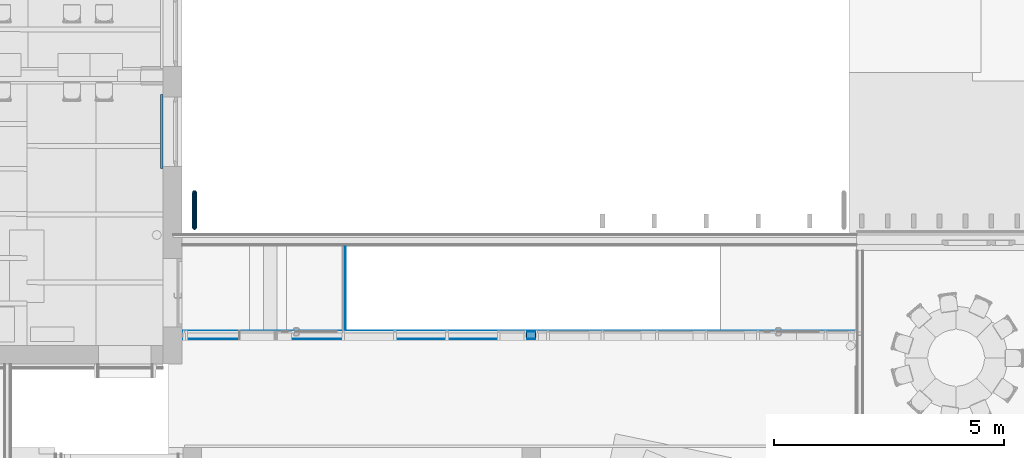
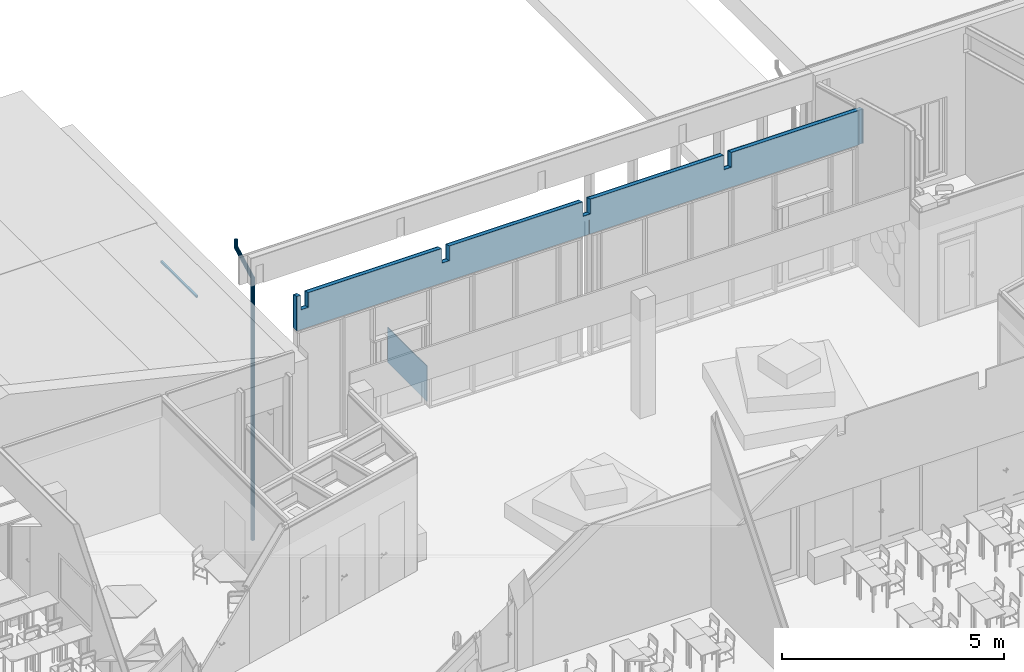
# One storey, part 63 of 153: 5 building element parts, 2 discrete accessories, 2 elements without a shape of their own.
"""IFC2X3 building model written with IfcOpenShell, lengths in millimetres."""

import ifcopenshell
import ifcopenshell.guid

model = None  # the IFC model being written
_history = None  # IfcOwnerHistory: only IFC2X3 demands one
_inside = {}  # id of a spatial element -> (the spatial element, [elements in it])
_under = {}  # id of a project, library or spatial element -> (it, [spatial elements below it])
_declared = {}  # id of a project -> (the project, [libraries it declares])
_typed = {}  # id of a type object -> (the type object, [elements of that type])
_made_of = {}  # id of a material, layer set ... -> (it, [elements and type objects made of it])


def new_model(schema):
    """Start an empty IFC model of exactly this schema.

    Asked for "IFC4X3", IfcOpenShell would pick the latest addendum, in which some entities
    have other attributes; the version numbers below select the first issue.
    IFC2X3 requires an IfcOwnerHistory on every rooted entity: one is made here for all.
    """
    global model, _history
    if schema == "IFC4X3":
        model = ifcopenshell.file(schema_version=(4, 3, 0, 0))
    else:
        model = ifcopenshell.file(schema=schema)
    _inside.clear()
    _under.clear()
    _declared.clear()
    _typed.clear()
    _made_of.clear()
    _history = None
    if model.schema == "IFC2X3":
        org = make("IfcOrganization", Name="unknown")
        user = make(
            "IfcPersonAndOrganization",
            ThePerson=make("IfcPerson", FamilyName="unknown"),
            TheOrganization=org,
        )
        app = make(
            "IfcApplication",
            ApplicationDeveloper=org,
            Version="unknown",
            ApplicationFullName="unknown",
            ApplicationIdentifier="unknown",
        )
        _history = make(
            "IfcOwnerHistory",
            OwningUser=user,
            OwningApplication=app,
            ChangeAction="ADDED",
            CreationDate=0,
        )
    return model


def make(cls, **values):
    """One entity of the class cls with the attributes given. An attribute that is None is left unset."""
    return model.create_entity(
        cls, **{name: value for name, value in values.items() if value is not None}
    )


def entity(cls, *values):
    """Any entity or typed value of the class cls, its attributes in the order of the schema. None: left unset."""
    e = model.create_entity(cls)
    for i, value in enumerate(values):
        if value is not None:
            e[i] = value
    return e


def rooted(cls, **values):
    """An entity with a GlobalId (a new one), such as an element, a storey or a relation."""
    return make(cls, GlobalId=ifcopenshell.guid.new(), OwnerHistory=_history, **values)


def si_unit(unit_type, name, prefix=None):
    """IfcSIUnit, for example si_unit("LENGTHUNIT", "METRE", prefix="MILLI")."""
    return make("IfcSIUnit", UnitType=unit_type, Prefix=prefix, Name=name)


def converted_unit(unit_type, name, factor, base, dimensions=None, offset=None):
    """IfcConversionBasedUnit, such as the inch: factor (a typed value) times the base unit."""
    return make(
        "IfcConversionBasedUnit"
        if offset is None
        else "IfcConversionBasedUnitWithOffset",
        ConversionOffset=offset,
        Dimensions=None
        if dimensions is None
        else entity("IfcDimensionalExponents", *dimensions),
        UnitType=unit_type,
        Name=name,
        ConversionFactor=make(
            "IfcMeasureWithUnit", ValueComponent=factor, UnitComponent=base
        ),
    )


def derived_unit(unit_type, elements):
    """IfcDerivedUnit: a product of units, each with its exponent."""
    return make(
        "IfcDerivedUnit",
        Elements=[
            make("IfcDerivedUnitElement", Unit=unit, Exponent=power)
            for unit, power in elements
        ],
        UnitType=unit_type,
    )


def money_unit(currency):
    """IfcMonetaryUnit."""
    return make("IfcMonetaryUnit", Currency=currency)


def assignment(units):
    """IfcUnitAssignment: the units of a project."""
    return None if units is None else make("IfcUnitAssignment", Units=units)


def point(xyz):
    """IfcCartesianPoint."""
    return None if xyz is None else make("IfcCartesianPoint", Coordinates=xyz)


def direction(xyz):
    """IfcDirection."""
    return None if xyz is None else make("IfcDirection", DirectionRatios=xyz)


def frame(location, z_axis=None, x_axis=None):
    """IfcAxis2Placement3D, a coordinate frame: its origin and axes. An axis left out is left unset."""
    return make(
        "IfcAxis2Placement3D",
        Location=point(location),
        Axis=direction(z_axis),
        RefDirection=direction(x_axis),
    )


def origin_with_axes():
    """The frame at (0, 0, 0) with the z axis (0, 0, 1) and the x axis (1, 0, 0) written out."""
    return frame((0.0, 0.0, 0.0), z_axis=(0.0, 0.0, 1.0), x_axis=(1.0, 0.0, 0.0))


def place(relative_to, where):
    """IfcLocalPlacement: puts the frame where relative to a parent placement (None: the world)."""
    return make(
        "IfcLocalPlacement", PlacementRelTo=relative_to, RelativePlacement=where
    )


def context(
    kind, dimensions, precision=None, world=None, true_north=None, identifier=None
):
    """IfcGeometricRepresentationContext, for example the 3D "Model" context."""
    return make(
        "IfcGeometricRepresentationContext",
        ContextIdentifier=identifier,
        ContextType=kind,
        CoordinateSpaceDimension=dimensions,
        Precision=precision,
        WorldCoordinateSystem=world,
        TrueNorth=true_north,
    )


def subcontext(parent, identifier, kind, view, scale=None):
    """IfcGeometricRepresentationSubContext, for example "Body" below "Model"."""
    return make(
        "IfcGeometricRepresentationSubContext",
        ContextIdentifier=identifier,
        ContextType=kind,
        ParentContext=parent,
        TargetScale=scale,
        TargetView=view,
    )


def project(units=None, contexts=None):
    """IfcProject with its units and contexts."""
    return rooted(
        "IfcProject",
        Name="project",
        RepresentationContexts=contexts,
        UnitsInContext=assignment(units),
    )


def spatial(cls, under=None, at=None, **own):
    """A site, building, storey or space (cls), placed at a placement, below another one or the project."""
    s = rooted(cls, ObjectPlacement=at, **own)
    if under is not None:
        _under.setdefault(under.id(), (under, []))[1].append(s)
    return s


def faces_of(points, faces, orient=None, outer=None):
    """IfcFace entities. A face is a list of loops; a loop is a list of indices into points, from 0.

    orient and outer hold one flag for each loop. By default every Orientation is true, the
    first loop of a face is its IfcFaceOuterBound and the others are IfcFaceBound.
    """
    made = []
    for i, loops in enumerate(faces):
        bounds = []
        for j, loop in enumerate(loops):
            is_outer = j == 0 if outer is None else outer[i][j]
            bounds.append(
                make(
                    "IfcFaceOuterBound" if is_outer else "IfcFaceBound",
                    Bound=make("IfcPolyLoop", Polygon=[points[k] for k in loop]),
                    Orientation=True if orient is None else orient[i][j],
                )
            )
        made.append(make("IfcFace", Bounds=bounds))
    return made


def open_shell(faces, orient=None, outer=None):
    """The faces of one IfcOpenShell. surface_model builds it on its shared points."""
    return ("IfcOpenShell", faces, orient, outer)


def faceted_brep(points, faces, orient=None, outer=None, voids=None):
    """IfcFacetedBrep: a solid bounded by flat faces; with voids (closed shells), ...WithVoids."""
    shared = [point(p) for p in points]
    hull = make("IfcClosedShell", CfsFaces=faces_of(shared, faces, orient, outer))
    if voids is None:
        return make("IfcFacetedBrep", Outer=hull)
    return make(
        "IfcFacetedBrepWithVoids",
        Outer=hull,
        Voids=[
            make(cls, CfsFaces=faces_of(shared, fs, o, b)) for cls, fs, o, b in voids
        ],
    )


def surface_model(cls, points, shells):
    """IfcFaceBasedSurfaceModel or IfcShellBasedSurfaceModel (cls): surfaces that need not close."""
    shared = [point(p) for p in points]
    made = [make(c, CfsFaces=faces_of(shared, fs, o, b)) for c, fs, o, b in shells]
    if cls == "IfcFaceBasedSurfaceModel":
        return make(cls, FbsmFaces=made)
    return make(cls, SbsmBoundary=made)


def shape(context_of_items, identifier, shape_type, items):
    """IfcShapeRepresentation: the items that make up one representation, for example the "Body"."""
    return make(
        "IfcShapeRepresentation",
        ContextOfItems=context_of_items,
        RepresentationIdentifier=identifier,
        RepresentationType=shape_type,
        Items=items,
    )


def material(Name=None, Category=None):
    """IfcMaterial."""
    return make("IfcMaterial", Name=Name, Category=Category)


def made_of(thing, what):
    """Note that an element or type object is made of a material, layer set ...; save() writes the relation."""
    if what is not None:
        _made_of.setdefault(what.id(), (what, []))[1].append(thing)
    return thing


def type_object(cls, material=None, **own):
    """A type object (cls), such as IfcWallType, which elements share."""
    return made_of(rooted(cls, **own), material)


def element(
    cls,
    number,
    at=None,
    inside=None,
    cuts=None,
    type_object=None,
    material=None,
    context=None,
    identifier="Body",
    shape_type=None,
    held_by="IfcProductDefinitionShape",
    body=None,
    shapes=None,
    **own,
):
    """One element of the class cls, such as IfcWall. Its Tag is "e" and its number.

    at: its placement. inside: the storey or other place that contains it. cuts: it is an
    opening in that element (IfcRelVoidsElement). A single representation is given by context,
    identifier, shape_type and body (its items); several are given by shapes. held_by: the class
    of the entity that holds the representations. save() writes the other relations.
    """
    e = rooted(cls, Tag="e%d" % number, ObjectPlacement=at, **own)
    if body is not None:
        shapes = [shape(context, identifier, shape_type, body)]
    if shapes is not None:
        e.Representation = make(held_by, Representations=shapes)
    if inside is not None:
        _inside.setdefault(inside.id(), (inside, []))[1].append(e)
    if cuts is not None:
        rooted(
            "IfcRelVoidsElement", RelatingBuildingElement=cuts, RelatedOpeningElement=e
        )
    if type_object is not None:
        _typed.setdefault(type_object.id(), (type_object, []))[1].append(e)
    return made_of(e, material)


def aggregate(whole, parts):
    """IfcRelAggregates: a whole, such as a stair, and the parts it consists of."""
    return rooted("IfcRelAggregates", RelatingObject=whole, RelatedObjects=parts)


def save(model, path):
    """Write the relations noted so far, then the file.

    IfcRelAggregates (storeys below a building ...), IfcRelContainedInSpatialStructure (elements
    in a storey), IfcRelDefinesByType, IfcRelAssociatesMaterial and IfcRelDeclares: one each for
    every whole, place, type object, material and project.
    """
    for whole, parts in _under.values():
        aggregate(whole, parts)
    for where, things in _inside.values():
        rooted(
            "IfcRelContainedInSpatialStructure",
            RelatedElements=things,
            RelatingStructure=where,
        )
    for kind, things in _typed.values():
        rooted("IfcRelDefinesByType", RelatedObjects=things, RelatingType=kind)
    for what, things in _made_of.values():
        rooted("IfcRelAssociatesMaterial", RelatedObjects=things, RelatingMaterial=what)
    for by, libraries in _declared.values():
        rooted("IfcRelDeclares", RelatingContext=by, RelatedDefinitions=libraries)
    model.write(path)


model = new_model("IFC2X3")

# Units and contexts
model_context = context("Model", 3, precision=0.01, world=origin_with_axes(), true_north=direction((0.0, 1.0)))
body_context = subcontext(model_context, "Body", "Model", "MODEL_VIEW")
ifc_project = project(units=[si_unit("LENGTHUNIT", "METRE", prefix="MILLI"), si_unit("AREAUNIT", "SQUARE_METRE"), si_unit("VOLUMEUNIT", "CUBIC_METRE"), converted_unit("PLANEANGLEUNIT", "DEGREE", entity("IfcPlaneAngleMeasure", 0.0174532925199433), si_unit("PLANEANGLEUNIT", "RADIAN"), dimensions=[0, 0, 0, 0, 0, 0, 0]), money_unit("EUR"), converted_unit("TIMEUNIT", "Year", entity("IfcTimeMeasure", 31557600.0), si_unit("TIMEUNIT", "SECOND"), dimensions=[0, 0, 1, 0, 0, 0, 0]), si_unit("MASSUNIT", "GRAM", prefix="KILO"), si_unit("THERMODYNAMICTEMPERATUREUNIT", "DEGREE_CELSIUS"), si_unit("LUMINOUSINTENSITYUNIT", "LUMEN"), si_unit("ENERGYUNIT", "JOULE", prefix="MEGA"), derived_unit("THERMALCONDUCTANCEUNIT", [(si_unit("POWERUNIT", "WATT"), 1), (si_unit("LENGTHUNIT", "METRE"), -1), (si_unit("THERMODYNAMICTEMPERATUREUNIT", "KELVIN"), -1)]), derived_unit("SPECIFICHEATCAPACITYUNIT", [(si_unit("ENERGYUNIT", "JOULE"), 1), (si_unit("MASSUNIT", "GRAM", prefix="KILO"), -1), (si_unit("THERMODYNAMICTEMPERATUREUNIT", "KELVIN"), -1)]), derived_unit("MASSDENSITYUNIT", [(si_unit("MASSUNIT", "GRAM", prefix="KILO"), 1), (si_unit("VOLUMEUNIT", "CUBIC_METRE"), -1)])], contexts=[model_context])

# Site, building, storey
site_placement = place(None, frame((0.0, 0.0, 8650.0), z_axis=(0.0, 0.0, 1.0), x_axis=(1.0, 0.0, 0.0)))
site = spatial("IfcSite", under=ifc_project, at=site_placement, Name="43301:001:0844", CompositionType="ELEMENT")
building_placement = place(site_placement, origin_with_axes())
building = spatial("IfcBuilding", under=site, at=building_placement, Name="Kuressaare Ametikooli tuulikute mehaanikute õppekorpus", CompositionType="ELEMENT")
storey_placement = place(building_placement, frame((0.0, 0.0, 4100.0), z_axis=(0.0, 0.0, 1.0), x_axis=(1.0, 0.0, 0.0)))
storey = spatial("IfcBuildingStorey", under=building, at=storey_placement, Name="2.korrus", CompositionType="ELEMENT", Elevation=4100.0)

# Discrete accessories
ifc_material_1 = material(Name="GENEERILINE - KONSTRUKTRIOON")
discrete_accessory_type_1 = type_object("IfcDiscreteAccessoryType", Name="GENEERILINE - KONSTRUKTRIOON 50")
discrete_accessory_1_placement = place(storey_placement, frame((103227.5122070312, 31634.61063422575, 2170.000000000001), z_axis=(0.0, 0.0, 1.0), x_axis=(1.0, 0.0, 0.0)))
element("IfcDiscreteAccessory", 1, at=discrete_accessory_1_placement, inside=storey, type_object=discrete_accessory_type_1, material=ifc_material_1, Name="RK2", context=body_context, shape_type="Brep", body=[
    faceted_brep([(0.0, 0.0, 49.99999999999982), (0.0, 0.0, 0.0), (-49.99999999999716, 0.0, 0.0), (-49.99999999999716, 0.0, 49.99999999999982), (0.0, -1610.0, 49.99999999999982), (0.0, -1610.0, 0.0), (-49.99999999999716, -1610.0, 0.0), (-49.99999999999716, -1610.0, 49.99999999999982)], [[[0, 1, 2, 3]], [[4, 5, 1, 0]], [[2, 1, 5, 6]], [[3, 2, 6, 7]], [[4, 0, 3, 7]], [[7, 6, 5, 4]]]),
])
discrete_accessory_type_2 = type_object("IfcDiscreteAccessoryType", Name="Downspout Complex 27")
discrete_accessory_2_placement = place(storey_placement, frame((103913.9129925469, 28747.04645944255, -3966.646428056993), z_axis=(0.0, 0.0, 1.0), x_axis=(-1.0, 0.0, 0.0)))
element("IfcDiscreteAccessory", 2, at=discrete_accessory_2_placement, inside=storey, type_object=discrete_accessory_type_2, Name="SV püstik", context=body_context, shape_type="SurfaceModel", body=[
    surface_model("IfcShellBasedSurfaceModel", [(-50.0, 0.0, 7000.949244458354), (-50.0, 0.0, 0.0), (-46.19397662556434, -19.13417161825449, 0.0), (-46.19397662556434, -19.13417161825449, 7000.949244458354), (-46.19397662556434, 19.13417161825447, 7000.949244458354), (-46.19397662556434, 19.13417161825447, 0.0), (-35.35533905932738, -35.35533905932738, 0.0), (-35.35533905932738, -35.35533905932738, 7000.949244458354), (-35.35533905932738, 35.35533905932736, 7000.949244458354), (-35.35533905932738, 35.35533905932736, 0.0), (-19.13417161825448, -46.19397662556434, 0.0), (-19.13417161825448, -46.19397662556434, 7000.949244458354), (-19.13417161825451, 46.19397662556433, 7000.949244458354), (-19.13417161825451, 46.19397662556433, 0.0), (0.0, -50.0, 0.0), (0.0, -50.0, 7000.949244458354), (0.0, 50.0, 7000.949244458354), (0.0, 50.0, 0.0), (19.13417161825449, -46.19397662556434, 0.0), (19.13417161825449, -46.19397662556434, 7000.949244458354), (19.13417161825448, 46.19397662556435, 7000.949244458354), (19.13417161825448, 46.19397662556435, 0.0), (35.35533905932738, -35.35533905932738, 0.0), (35.35533905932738, -35.35533905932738, 7000.949244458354), (35.35533905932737, 35.35533905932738, 7000.949244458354), (35.35533905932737, 35.35533905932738, 0.0), (46.19397662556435, -19.13417161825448, 0.0), (46.19397662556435, -19.13417161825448, 7000.949244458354), (46.19397662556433, 19.1341716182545, 7000.949244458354), (46.19397662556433, 19.1341716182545, 0.0), (50.0, 0.0, 0.0), (50.0, 0.0, 7000.949244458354)], [open_shell([[[0, 1, 2, 3]], [[4, 5, 1, 0]], [[3, 2, 6, 7]], [[8, 9, 5, 4]], [[7, 6, 10, 11]], [[12, 13, 9, 8]], [[11, 10, 14, 15]], [[16, 17, 13, 12]], [[15, 14, 18, 19]], [[20, 21, 17, 16]], [[19, 18, 22, 23]], [[24, 25, 21, 20]], [[23, 22, 26, 27]], [[28, 29, 25, 24]], [[27, 26, 30, 31]], [[31, 30, 29, 28]]])]),
    surface_model("IfcShellBasedSurfaceModel", [(50.0, -759.3033535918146, 7800.949244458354), (50.0, -759.3033535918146, 7600.949244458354), (46.19397662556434, -740.1691819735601, 7612.496223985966), (46.19397662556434, -740.1691819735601, 7800.949244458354), (46.19397662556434, -778.437525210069, 7800.949244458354), (46.19397662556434, -778.437525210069, 7589.402264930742), (49.99999999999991, 0.0, 7200.949244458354), (46.19397662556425, 19.13417161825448, 7212.496223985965), (35.35533905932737, -723.9480145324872, 7622.285280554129), (35.35533905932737, -723.9480145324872, 7800.949244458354), (35.35533905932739, -794.6586926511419, 7800.949244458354), (35.35533905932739, -794.6586926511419, 7579.613208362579), (46.19397662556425, -19.13417161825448, 7189.402264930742), (49.99999999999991, 0.0, 7000.949244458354), (46.19397662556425, 19.13417161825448, 7000.949244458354), (35.35533905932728, 35.35533905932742, 7222.285280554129), (19.13417161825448, -713.1093769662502, 7628.82611903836), (19.13417161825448, -713.1093769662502, 7800.949244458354), (19.13417161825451, -805.4973302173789, 7800.949244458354), (19.13417161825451, -805.4973302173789, 7573.072369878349), (35.35533905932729, -35.35533905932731, 7179.613208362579), (46.19397662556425, -19.13417161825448, 7000.949244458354), (35.35533905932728, 35.35533905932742, 7000.949244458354), (19.13417161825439, 46.19397662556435, 7228.826119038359), (0.0, -709.3033535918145, 7631.122956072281), (0.0, -709.3033535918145, 7800.949244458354), (0.0, -809.3033535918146, 7800.949244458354), (0.0, -809.3033535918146, 7570.775532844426), (19.13417161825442, -46.19397662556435, 7173.072369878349), (35.35533905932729, -35.35533905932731, 7000.949244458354), (19.13417161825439, 46.19397662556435, 7000.949244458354), (0.0, 50.00000000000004, 7231.122956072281), (-19.1341716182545, -713.1093769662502, 7628.82611903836), (-19.1341716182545, -713.1093769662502, 7800.949244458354), (-19.13417161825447, -805.4973302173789, 7800.949244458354), (-19.13417161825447, -805.4973302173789, 7573.072369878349), (0.0, -50.00000000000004, 7170.775532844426), (19.13417161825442, -46.19397662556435, 7000.949244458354), (0.0, 50.00000000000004, 7000.949244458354), (-19.13417161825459, 46.19397662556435, 7228.826119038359), (-35.35533905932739, -723.9480145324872, 7622.285280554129), (-35.35533905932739, -723.9480145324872, 7800.949244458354), (-35.35533905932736, -794.658692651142, 7800.949244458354), (-35.35533905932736, -794.658692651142, 7579.613208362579), (-19.13417161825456, -46.19397662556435, 7173.072369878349), (0.0, -50.00000000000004, 7000.949244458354), (-19.13417161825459, 46.19397662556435, 7000.949244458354), (-35.35533905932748, 35.35533905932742, 7222.285280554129), (-46.19397662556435, -740.1691819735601, 7612.496223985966), (-46.19397662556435, -740.1691819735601, 7800.949244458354), (-46.19397662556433, -778.437525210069, 7800.949244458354), (-46.19397662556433, -778.437525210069, 7589.402264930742), (-35.35533905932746, -35.35533905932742, 7179.613208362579), (-19.13417161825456, -46.19397662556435, 7000.949244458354), (-35.35533905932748, 35.35533905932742, 7000.949244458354), (-46.19397662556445, 19.13417161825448, 7212.496223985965), (-50.0, -759.3033535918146, 7600.949244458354), (-50.0, -759.3033535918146, 7800.949244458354), (-46.19397662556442, -19.13417161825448, 7189.402264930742), (-35.35533905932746, -35.35533905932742, 7000.949244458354), (-46.19397662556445, 19.13417161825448, 7000.949244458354), (-50.00000000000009, 0.0, 7200.949244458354), (-46.19397662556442, -19.13417161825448, 7000.949244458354), (-50.00000000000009, 0.0, 7000.949244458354)], [open_shell([[[0, 1, 2, 3]], [[4, 5, 1, 0]], [[1, 6, 7, 2]], [[3, 2, 8, 9]], [[10, 11, 5, 4]], [[5, 12, 6, 1]], [[6, 13, 14, 7]], [[2, 7, 15, 8]], [[9, 8, 16, 17]], [[18, 19, 11, 10]], [[11, 20, 12, 5]], [[12, 21, 13, 6]], [[7, 14, 22, 15]], [[8, 15, 23, 16]], [[17, 16, 24, 25]], [[26, 27, 19, 18]], [[19, 28, 20, 11]], [[20, 29, 21, 12]], [[15, 22, 30, 23]], [[16, 23, 31, 24]], [[25, 24, 32, 33]], [[34, 35, 27, 26]], [[27, 36, 28, 19]], [[28, 37, 29, 20]], [[23, 30, 38, 31]], [[24, 31, 39, 32]], [[33, 32, 40, 41]], [[42, 43, 35, 34]], [[35, 44, 36, 27]], [[36, 45, 37, 28]], [[31, 38, 46, 39]], [[32, 39, 47, 40]], [[41, 40, 48, 49]], [[50, 51, 43, 42]], [[43, 52, 44, 35]], [[44, 53, 45, 36]], [[39, 46, 54, 47]], [[40, 47, 55, 48]], [[49, 48, 56, 57]], [[57, 56, 51, 50]], [[51, 58, 52, 43]], [[52, 59, 53, 44]], [[47, 54, 60, 55]], [[48, 55, 61, 56]], [[56, 61, 58, 51]], [[58, 62, 59, 52]], [[55, 60, 63, 61]], [[61, 63, 62, 58]]])]),
])

# Railing, building element part
railing_type = type_object("IfcRailingType", Name="Railing Type", PredefinedType="NOTDEFINED")
railing_placement = place(storey_placement, frame((107527.9546692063, 28359.57374875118, 0.0), z_axis=(0.0, 0.0, 1.0), x_axis=(1.0, 0.0, 0.0)))
railing = element("IfcRailing", 3, at=railing_placement, inside=storey, type_object=railing_type, Name="Piire", PredefinedType="NOTDEFINED")
ifc_material_2 = material(Name="Klaas")
building_element_part_1_placement = place(railing_placement, origin_with_axes())
building_element_part_1 = element("IfcBuildingElementPart", 4, at=building_element_part_1_placement, material=ifc_material_2, Name="Klaas", context=body_context, shape_type="Brep", body=[
    faceted_brep([(-330.8519869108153, -1820.0, 30.00000000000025), (-330.8519869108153, -30.00000000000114, 30.00000000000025), (-330.8519869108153, -29.99999999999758, 1000.0), (-330.8519869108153, -1819.999999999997, 1000.0), (-350.8519869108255, -30.00000000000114, 30.00000000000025), (-350.8519869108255, -1820.0, 30.00000000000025), (-350.8519869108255, -29.99999999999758, 1000.0), (-350.8519869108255, -1819.999999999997, 1000.0)], [[[0, 1, 2, 3]], [[4, 1, 0, 5]], [[6, 2, 1, 4]], [[3, 2, 6, 7]], [[0, 3, 7, 5]], [[6, 4, 5, 7]]]),
])
aggregate(railing, [building_element_part_1])

# Wall, building element parts
wall_type = type_object("IfcWallType", Name="SS-2.1.1 197", PredefinedType="NOTDEFINED")
wall_placement = place(storey_placement, frame((103667.1026129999, 26509.57374875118, 3332.284635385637), z_axis=(0.0, 0.0, 1.0), x_axis=(1.0, 0.0, 0.0)))
wall = element("IfcWall", 5, at=wall_placement, inside=storey, type_object=wall_type, Name="Sisesein")
ifc_material_3 = material(Name="Kipsplaat")
building_element_part_2_placement = place(wall_placement, origin_with_axes())
building_element_part_2 = element("IfcBuildingElementPart", 6, at=building_element_part_2_placement, material=ifc_material_3, Name="Kipsplaat", context=body_context, shape_type="Brep", body=[
    faceted_brep([(11325.84676160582, 0.0, 898.7783972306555), (14614.17311477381, 0.0, 898.7782768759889), (14627.17311738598, 0.0, 898.7782764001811), (14627.17311738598, 0.0, 0.0), (0.0, 0.0, 0.0), (0.0, 0.0, 898.7788117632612), (100.8495287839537, 0.0, 898.7788080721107), (100.8495287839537, 0.0, 495.6842104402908), (300.8495287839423, 0.0, 495.6842104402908), (300.8495287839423, 0.0, 898.7788007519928), (3775.846761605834, 0.0, 898.7786735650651), (3775.846761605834, 0.0, 495.6854861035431), (3975.846761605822, 0.0, 495.6854861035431), (3975.846761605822, 0.0, 898.778666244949), (7450.846761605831, 0.0, 898.7785390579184), (7450.846761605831, 0.0, 495.6854861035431), (7650.84676160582, 0.0, 495.6854861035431), (7650.84676160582, 0.0, 898.7785317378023), (11125.84676160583, 0.0, 898.7784045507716), (11125.84676160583, 0.0, 495.6842104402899), (11325.84676160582, 0.0, 495.6842104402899), (14627.17311738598, -12.99999999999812, 902.3297969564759), (11325.84676160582, -12.99999999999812, 902.3299177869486), (14627.17311738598, -12.99999999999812, 0.0), (0.0, -13.00000000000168, 0.0), (0.0, -13.00000000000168, 902.330332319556), (100.8495287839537, -12.99999999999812, 902.3303286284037), (100.8495287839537, -12.99999999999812, 499.1675486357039), (300.8495287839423, -12.99999999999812, 499.1675486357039), (300.8495287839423, -12.99999999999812, 902.3303213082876), (3775.846761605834, -12.99999999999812, 902.3301941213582), (3775.846761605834, -12.99999999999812, 499.1688242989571), (3975.846761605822, -12.99999999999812, 499.1688242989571), (3975.846761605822, -12.99999999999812, 902.3301868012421), (7450.846761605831, -12.99999999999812, 902.3300596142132), (7450.846761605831, -12.99999999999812, 499.1688242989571), (7650.84676160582, -12.99999999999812, 499.1688242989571), (7650.84676160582, -12.99999999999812, 902.3300522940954), (11125.84676160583, -12.99999999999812, 902.3299251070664), (11125.84676160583, -12.99999999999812, 499.1675486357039), (11325.84676160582, -12.99999999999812, 499.1675486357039)], [[[0, 1, 2, 3, 4, 5, 6, 7, 8, 9, 10, 11, 12, 13, 14, 15, 16, 17, 18, 19, 20]], [[21, 2, 1, 0, 22]], [[2, 21, 23, 3]], [[4, 3, 23, 24]], [[25, 5, 4, 24]], [[26, 6, 5, 25]], [[6, 26, 27, 7]], [[28, 8, 7, 27]], [[29, 9, 8, 28]], [[30, 10, 9, 29]], [[10, 30, 31, 11]], [[32, 12, 11, 31]], [[33, 13, 12, 32]], [[34, 14, 13, 33]], [[14, 34, 35, 15]], [[36, 16, 15, 35]], [[37, 17, 16, 36]], [[38, 18, 17, 37]], [[18, 38, 39, 19]], [[40, 20, 19, 39]], [[22, 0, 20, 40]], [[21, 22, 40, 39, 38, 37, 36, 35, 34, 33, 32, 31, 30, 29, 28, 27, 26, 25, 24, 23]]]),
    faceted_brep([(14748.17311738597, 0.0, 898.7782719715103), (14761.17311738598, 0.0, 898.7782714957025), (14761.17311738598, 0.0, 0.0), (14748.17311738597, 0.0, 0.0), (14761.17311738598, -12.99999999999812, 902.3297920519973), (14748.17311738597, -12.99999999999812, 902.3297925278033), (14761.17311738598, -12.99999999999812, 0.0), (14748.17311738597, -12.99999999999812, 0.0)], [[[0, 1, 2, 3]], [[4, 1, 0, 5]], [[1, 4, 6, 2]], [[3, 2, 6, 7]], [[5, 0, 3, 7]], [[4, 5, 7, 6]]]),
])
building_element_part_3_placement = place(wall_placement, origin_with_axes())
building_element_part_3 = element("IfcBuildingElementPart", 7, at=building_element_part_3_placement, material=ifc_material_3, Name="Kipsplaat", context=body_context, shape_type="Brep", body=[
    faceted_brep([(11325.84676160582, -12.99999999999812, 902.3299177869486), (14627.17311738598, -12.99999999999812, 902.3297969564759), (14640.17311738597, -12.99999999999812, 902.329796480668), (14640.17311738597, -12.99999999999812, 0.0), (0.0, -13.00000000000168, 0.0), (0.0, -13.00000000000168, 902.330332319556), (100.8495287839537, -12.99999999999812, 902.3303286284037), (100.8495287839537, -12.99999999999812, 499.1675486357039), (300.8495287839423, -12.99999999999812, 499.1675486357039), (300.8495287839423, -12.99999999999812, 902.3303213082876), (3775.846761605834, -12.99999999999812, 902.3301941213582), (3775.846761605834, -12.99999999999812, 499.1688242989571), (3975.846761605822, -12.99999999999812, 499.1688242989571), (3975.846761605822, -12.99999999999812, 902.3301868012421), (7450.846761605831, -12.99999999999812, 902.3300596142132), (7450.846761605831, -12.99999999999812, 499.1688242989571), (7650.84676160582, -12.99999999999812, 499.1688242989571), (7650.84676160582, -12.99999999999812, 902.3300522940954), (11125.84676160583, -12.99999999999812, 902.3299251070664), (11125.84676160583, -12.99999999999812, 499.1675486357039), (11325.84676160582, -12.99999999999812, 499.1675486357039), (14640.17311738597, -25.9999999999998, 905.881317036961), (11325.84676160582, -25.9999999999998, 905.8814383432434), (14640.17311738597, -25.9999999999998, 0.0), (0.0, -25.9999999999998, 0.0), (0.0, -25.9999999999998, 905.8818528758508), (100.8495287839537, -25.9999999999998, 905.8818491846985), (100.8495287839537, -25.9999999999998, 502.6508868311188), (300.8495287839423, -25.9999999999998, 502.6508868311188), (300.8495287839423, -25.9999999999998, 905.8818418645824), (3775.846761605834, -25.9999999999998, 905.881714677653), (3775.846761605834, -25.9999999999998, 502.6521624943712), (3975.846761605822, -25.9999999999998, 502.6521624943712), (3975.846761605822, -25.9999999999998, 905.8817073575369), (7450.846761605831, -25.9999999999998, 905.8815801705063), (7450.846761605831, -25.9999999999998, 502.6521624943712), (7650.84676160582, -25.9999999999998, 502.6521624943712), (7650.84676160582, -25.9999999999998, 905.8815728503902), (11125.84676160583, -25.9999999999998, 905.8814456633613), (11125.84676160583, -25.9999999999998, 502.6508868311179), (11325.84676160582, -25.9999999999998, 502.6508868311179)], [[[0, 1, 2, 3, 4, 5, 6, 7, 8, 9, 10, 11, 12, 13, 14, 15, 16, 17, 18, 19, 20]], [[21, 2, 1, 0, 22]], [[2, 21, 23, 3]], [[4, 3, 23, 24]], [[25, 5, 4, 24]], [[26, 6, 5, 25]], [[6, 26, 27, 7]], [[28, 8, 7, 27]], [[29, 9, 8, 28]], [[30, 10, 9, 29]], [[10, 30, 31, 11]], [[32, 12, 11, 31]], [[33, 13, 12, 32]], [[34, 14, 13, 33]], [[14, 34, 35, 15]], [[36, 16, 15, 35]], [[37, 17, 16, 36]], [[38, 18, 17, 37]], [[18, 38, 39, 19]], [[40, 20, 19, 39]], [[22, 0, 20, 40]], [[21, 22, 40, 39, 38, 37, 36, 35, 34, 33, 32, 31, 30, 29, 28, 27, 26, 25, 24, 23]]]),
    faceted_brep([(14735.17311738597, -12.99999999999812, 902.3297930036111), (14748.17311738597, -12.99999999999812, 902.3297925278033), (14761.17311738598, -12.99999999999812, 902.3297920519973), (14761.17311738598, -12.99999999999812, 0.0), (14735.17311738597, -12.99999999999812, 0.0), (14761.17311738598, -25.9999999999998, 905.8813126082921), (14735.17311738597, -25.9999999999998, 905.881313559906), (14761.17311738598, -25.9999999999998, 0.0), (14735.17311738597, -25.9999999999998, 0.0)], [[[0, 1, 2, 3, 4]], [[5, 2, 1, 0, 6]], [[2, 5, 7, 3]], [[4, 3, 7, 8]], [[6, 0, 4, 8]], [[5, 6, 8, 7]]]),
])
building_element_part_4_placement = place(wall_placement, origin_with_axes())
building_element_part_4 = element("IfcBuildingElementPart", 8, at=building_element_part_4_placement, material=ifc_material_3, Name="Kipsplaat", context=body_context, shape_type="Brep", body=[
    faceted_brep([(11325.84676160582, -170.9999999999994, 945.4945522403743), (14640.17311738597, -170.9999999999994, 945.4944309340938), (14640.17311738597, -170.9999999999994, 0.0), (7625.879654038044, -170.9999999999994, 0.0), (7625.879654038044, -170.9999999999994, 397.7153646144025), (7617.879654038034, -170.9999999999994, 397.7153646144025), (7617.879654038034, -170.9999999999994, 0.0), (7483.879654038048, -170.9999999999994, 0.0), (7483.879654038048, -170.9999999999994, 397.7153646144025), (7475.879654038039, -170.9999999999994, 397.7153646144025), (7475.879654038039, -170.9999999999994, 0.0), (0.0, -170.9999999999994, 0.0), (0.0, -170.9999999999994, 945.4949667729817), (100.8495287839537, -170.9999999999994, 945.4949630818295), (100.8495287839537, -170.9999999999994, 541.5035051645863), (300.8495287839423, -170.9999999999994, 541.5035051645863), (300.8495287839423, -170.9999999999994, 945.4949557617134), (3775.846761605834, -170.9999999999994, 945.4948285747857), (3775.846761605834, -170.9999999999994, 541.5047808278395), (3975.846761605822, -170.9999999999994, 541.5047808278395), (3975.846761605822, -170.9999999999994, 945.4948212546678), (7450.846761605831, -170.9999999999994, 945.494694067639), (7450.846761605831, -170.9999999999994, 541.5047808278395), (7650.84676160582, -170.9999999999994, 541.5047808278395), (7650.84676160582, -170.9999999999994, 945.4946867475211), (11125.84676160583, -170.9999999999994, 945.4945595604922), (11125.84676160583, -170.9999999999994, 541.5035051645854), (11325.84676160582, -170.9999999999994, 541.5035051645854), (14640.17311738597, -183.9999999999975, 949.0459514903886), (11325.84676160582, -183.9999999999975, 949.0460727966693), (14640.17311738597, -183.9999999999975, 0.0), (7624.806998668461, -183.9999999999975, 0.0), (7625.879654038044, -179.9967956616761, 0.0), (7625.879654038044, -179.9967956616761, 397.7153646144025), (7617.879654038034, -179.9967956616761, 397.7153646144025), (7624.806998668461, -183.9999999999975, 397.7153646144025), (7616.221472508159, -183.9999999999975, 397.7153646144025), (7617.879654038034, -179.9967956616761, 0.0), (7616.221472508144, -183.9999999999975, 0.0), (7485.537835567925, -183.9999999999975, 0.0), (7483.879654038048, -179.9967956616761, 0.0), (7483.879654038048, -179.9967956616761, 397.7153646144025), (7485.537835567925, -183.9999999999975, 397.7153646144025), (7476.952309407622, -183.9999999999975, 397.7153646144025), (7475.879654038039, -179.9967956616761, 397.7153646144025), (7475.879654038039, -179.9967956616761, 0.0), (7476.952309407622, -183.9999999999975, 0.0), (0.0, -184.0000000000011, 0.0), (0.0, -184.0000000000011, 949.0464873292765), (100.8495287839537, -184.0000000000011, 949.046483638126), (100.8495287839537, -183.9999999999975, 544.9868433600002), (300.8495287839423, -183.9999999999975, 544.9868433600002), (300.8495287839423, -184.0000000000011, 949.0464763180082), (3775.846761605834, -184.0000000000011, 949.0463491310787), (3775.846761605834, -183.9999999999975, 544.9881190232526), (3975.846761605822, -183.9999999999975, 544.9881190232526), (3975.846761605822, -184.0000000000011, 949.0463418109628), (7450.846761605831, -183.9999999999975, 949.046214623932), (7450.846761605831, -183.9999999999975, 544.9881190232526), (7650.84676160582, -183.9999999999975, 544.9881190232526), (7650.84676160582, -183.9999999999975, 949.0462073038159), (11125.84676160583, -183.9999999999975, 949.0460801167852), (11125.84676160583, -183.9999999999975, 544.9868433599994), (11325.84676160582, -183.9999999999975, 544.9868433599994)], [[[0, 1, 2, 3, 4, 5, 6, 7, 8, 9, 10, 11, 12, 13, 14, 15, 16, 17, 18, 19, 20, 21, 22, 23, 24, 25, 26, 27]], [[28, 1, 0, 29]], [[1, 28, 30, 2]], [[31, 32, 3, 2, 30]], [[33, 4, 3, 32]], [[34, 5, 4, 33, 35, 36]], [[37, 6, 5, 34]], [[6, 37, 38, 39, 40, 7]], [[41, 8, 7, 40]], [[41, 42, 43, 44, 9, 8]], [[45, 10, 9, 44]], [[10, 45, 46, 47, 11]], [[48, 12, 11, 47]], [[49, 13, 12, 48]], [[13, 49, 50, 14]], [[50, 51, 15, 14]], [[52, 16, 15, 51]], [[53, 17, 16, 52]], [[17, 53, 54, 18]], [[54, 55, 19, 18]], [[56, 20, 19, 55]], [[57, 21, 20, 56]], [[21, 57, 58, 22]], [[58, 59, 23, 22]], [[60, 24, 23, 59]], [[61, 25, 24, 60]], [[25, 61, 62, 26]], [[62, 63, 27, 26]], [[29, 0, 27, 63]], [[28, 29, 63, 62, 61, 60, 59, 58, 57, 56, 55, 54, 53, 52, 51, 50, 49, 48, 47, 46, 43, 42, 39, 38, 36, 35, 31, 30]], [[33, 32, 31, 35]], [[36, 38, 37, 34]], [[40, 39, 42, 41]], [[44, 43, 46, 45]]]),
    faceted_brep([(14735.17311738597, -170.9999999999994, 945.4944274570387), (14761.17311738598, -170.9999999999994, 945.494426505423), (14761.17311738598, -170.9999999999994, 0.0), (14735.17311738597, -170.9999999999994, 0.0), (14761.17311738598, -183.9999999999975, 949.0459470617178), (14735.17311738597, -183.9999999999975, 949.0459480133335), (14761.17311738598, -183.9999999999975, 0.0), (14735.17311738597, -183.9999999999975, 0.0)], [[[0, 1, 2, 3]], [[4, 1, 0, 5]], [[1, 4, 6, 2]], [[3, 2, 6, 7]], [[5, 0, 3, 7]], [[4, 5, 7, 6]]]),
])
ifc_material_4 = material(Name="Soojustus - Mineraalvill pehme")
building_element_part_5_placement = place(wall_placement, origin_with_axes())
building_element_part_5 = element("IfcBuildingElementPart", 9, at=building_element_part_5_placement, material=ifc_material_4, Name="Soojustus - Mineraalvill pehme", context=body_context, shape_type="Brep", body=[
    faceted_brep([(14640.17311738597, -25.9999999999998, 905.881317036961), (14735.17311738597, -25.9999999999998, 905.881313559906), (14761.17311738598, -25.9999999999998, 905.8813126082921), (14761.17311738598, -25.9999999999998, 0.0), (0.0, -25.9999999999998, 0.0), (0.0, -25.9999999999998, 905.8818528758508), (100.8495287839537, -25.9999999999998, 905.8818491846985), (100.8495287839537, -25.9999999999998, 502.6508868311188), (300.8495287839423, -25.9999999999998, 502.6508868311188), (300.8495287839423, -25.9999999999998, 905.8818418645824), (3775.846761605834, -25.9999999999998, 905.881714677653), (3775.846761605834, -25.9999999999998, 502.6521624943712), (3975.846761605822, -25.9999999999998, 502.6521624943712), (3975.846761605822, -25.9999999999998, 905.8817073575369), (7450.846761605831, -25.9999999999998, 905.8815801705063), (7450.846761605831, -25.9999999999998, 502.6521624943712), (7650.84676160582, -25.9999999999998, 502.6521624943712), (7650.84676160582, -25.9999999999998, 905.8815728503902), (11125.84676160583, -25.9999999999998, 905.8814456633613), (11125.84676160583, -25.9999999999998, 502.6508868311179), (11325.84676160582, -25.9999999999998, 502.6508868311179), (11325.84676160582, -25.9999999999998, 905.8814383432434), (14761.17311738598, -170.9999999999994, 945.494426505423), (11325.84676160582, -170.9999999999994, 945.4945522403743), (14761.17311738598, -170.9999999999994, 0.0), (7478.55914596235, -59.99679566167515, 0.0), (7475.879654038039, -69.99679566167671, 0.0), (7475.879654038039, -170.9999999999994, 0.0), (0.0, -170.9999999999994, 0.0), (7625.879654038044, -170.9999999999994, 0.0), (7625.879654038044, -69.99679566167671, 0.0), (7623.200162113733, -59.99679566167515, 0.0), (7615.879654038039, -52.67628758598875, 0.0), (7605.879654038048, -49.99679566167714, 0.0), (7495.879654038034, -49.99679566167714, 0.0), (7485.879654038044, -52.67628758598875, 0.0), (0.0, -170.9999999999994, 945.4949667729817), (100.8495287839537, -170.9999999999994, 945.4949630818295), (100.8495287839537, -170.9999999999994, 541.5035051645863), (300.8495287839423, -170.9999999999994, 541.5035051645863), (300.8495287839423, -170.9999999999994, 945.4949557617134), (3775.846761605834, -170.9999999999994, 945.4948285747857), (3775.846761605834, -170.9999999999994, 541.5047808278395), (3975.846761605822, -170.9999999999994, 541.5047808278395), (3975.846761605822, -170.9999999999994, 945.4948212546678), (7450.846761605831, -170.9999999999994, 945.494694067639), (7450.846761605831, -170.9999999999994, 541.5047808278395), (7650.84676160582, -170.9999999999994, 541.5047808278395), (7650.84676160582, -170.9999999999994, 945.4946867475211), (11125.84676160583, -170.9999999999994, 945.4945595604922), (11125.84676160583, -170.9999999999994, 541.5035051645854), (11325.84676160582, -170.9999999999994, 541.5035051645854), (7475.879654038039, -170.9999999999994, 397.7153646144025), (7483.879654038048, -170.9999999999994, 397.7153646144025), (7483.879654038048, -170.9999999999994, 0.0), (7617.879654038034, -170.9999999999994, 0.0), (7617.879654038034, -170.9999999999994, 397.7153646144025), (7625.879654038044, -170.9999999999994, 397.7153646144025), (7475.879654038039, -69.99679566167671, 397.7153646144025), (7478.55914596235, -59.99679566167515, 397.7153646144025), (7625.879654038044, -69.99679566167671, 397.7153646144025), (7623.200162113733, -59.99679566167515, 397.7153646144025), (7615.879654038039, -52.67628758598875, 397.7153646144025), (7605.879654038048, -49.99679566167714, 397.7153646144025), (7495.879654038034, -49.99679566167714, 397.7153646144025), (7485.879654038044, -52.67628758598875, 397.7153646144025), (7617.879654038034, -69.99679566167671, 397.7153646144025), (7614.364935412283, -61.51151428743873, 397.7153646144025), (7605.879654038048, -57.99679566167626, 397.7153646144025), (7495.879654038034, -57.99679566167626, 397.7153646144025), (7487.394372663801, -61.51151428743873, 397.7153646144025), (7483.879654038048, -69.99679566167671, 397.7153646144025), (7483.879654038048, -69.99679566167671, 0.0), (7614.364935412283, -61.51151428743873, 0.0), (7617.879654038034, -69.99679566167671, 0.0), (7487.394372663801, -61.51151428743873, 0.0), (7495.879654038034, -57.99679566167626, 0.0), (7605.879654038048, -57.99679566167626, 0.0)], [[[0, 1, 2, 3, 4, 5, 6, 7, 8, 9, 10, 11, 12, 13, 14, 15, 16, 17, 18, 19, 20, 21]], [[22, 2, 1, 0, 21, 23]], [[2, 22, 24, 3]], [[25, 26, 27, 28, 4, 3, 24, 29, 30, 31, 32, 33, 34, 35]], [[36, 5, 4, 28]], [[37, 6, 5, 36]], [[6, 37, 38, 7]], [[38, 39, 8, 7]], [[40, 9, 8, 39]], [[41, 10, 9, 40]], [[10, 41, 42, 11]], [[42, 43, 12, 11]], [[44, 13, 12, 43]], [[45, 14, 13, 44]], [[14, 45, 46, 15]], [[46, 47, 16, 15]], [[48, 17, 16, 47]], [[49, 18, 17, 48]], [[18, 49, 50, 19]], [[50, 51, 20, 19]], [[23, 21, 20, 51]], [[22, 23, 51, 50, 49, 48, 47, 46, 45, 44, 43, 42, 41, 40, 39, 38, 37, 36, 28, 27, 52, 53, 54, 55, 56, 57, 29, 24]], [[58, 26, 25, 59]], [[52, 27, 26, 58]], [[60, 30, 29, 57]], [[61, 31, 30, 60]], [[62, 32, 31, 61]], [[63, 33, 32, 62]], [[64, 34, 33, 63]], [[65, 35, 34, 64]], [[59, 25, 35, 65]], [[60, 57, 56, 66, 67, 68, 69, 70, 71, 53, 52, 58, 59, 65, 64, 63, 62, 61]], [[71, 72, 54, 53]], [[73, 74, 55, 54, 72, 75, 76, 77]], [[56, 55, 74, 66]], [[66, 74, 73, 67]], [[67, 73, 77, 68]], [[68, 77, 76, 69]], [[69, 76, 75, 70]], [[70, 75, 72, 71]]]),
])
aggregate(wall, [building_element_part_2, building_element_part_3, building_element_part_4, building_element_part_5])

save(model, "model.ifc")
